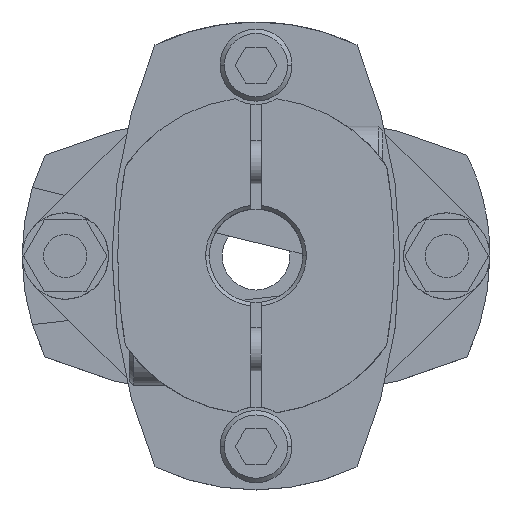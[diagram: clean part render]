
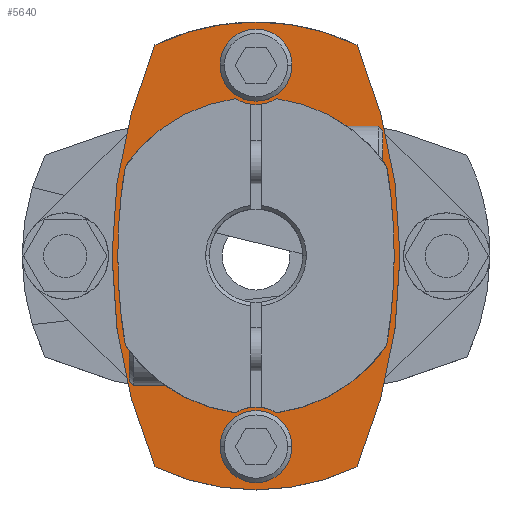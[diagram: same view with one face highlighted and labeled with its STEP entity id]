
A CAD part, top view. The second image highlights one B-rep face of the part: STEP entity #5640.
In plain terms, the highlighted planar face has unit normal (0, 0, 1).
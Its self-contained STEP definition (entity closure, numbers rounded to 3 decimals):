
#732=CARTESIAN_POINT('',(-20.,0.,9.75));
#733=VERTEX_POINT('',#732);
#749=CARTESIAN_POINT('',(-14.034,-29.314,9.75));
#750=VERTEX_POINT('',#749);
#757=CARTESIAN_POINT('',(55.,0.,9.75));
#758=DIRECTION('',(0.0,0.0,-1.0));
#759=DIRECTION('',(-1.0,0.0,0.0));
#760=AXIS2_PLACEMENT_3D('',#757,#758,#759);
#761=CIRCLE('',#760,75.);
#762=EDGE_CURVE('',#750,#733,#761,.T.);
#772=CARTESIAN_POINT('',(20.,0.,9.75));
#773=VERTEX_POINT('',#772);
#782=CARTESIAN_POINT('',(14.034,-29.314,9.75));
#783=VERTEX_POINT('',#782);
#784=CARTESIAN_POINT('',(-55.,0.,9.75));
#785=DIRECTION('',(0.0,0.0,-1.0));
#786=DIRECTION('',(-1.0,0.0,0.0));
#787=AXIS2_PLACEMENT_3D('',#784,#785,#786);
#788=CIRCLE('',#787,75.);
#789=EDGE_CURVE('',#773,#783,#788,.T.);
#1040=CARTESIAN_POINT('',(-5.,-26.5,9.75));
#1041=VERTEX_POINT('',#1040);
#1050=CARTESIAN_POINT('',(5.,-26.5,9.75));
#1051=VERTEX_POINT('',#1050);
#1052=CARTESIAN_POINT('',(0.,-26.5,9.75));
#1053=DIRECTION('',(0.0,0.0,-1.0));
#1054=DIRECTION('',(-1.0,0.0,0.0));
#1055=AXIS2_PLACEMENT_3D('',#1052,#1053,#1054);
#1056=CIRCLE('',#1055,5.0);
#1057=EDGE_CURVE('',#1051,#1041,#1056,.T.);
#1114=CARTESIAN_POINT('',(-5.,26.5,9.75));
#1115=VERTEX_POINT('',#1114);
#1124=CARTESIAN_POINT('',(5.,26.5,9.75));
#1125=VERTEX_POINT('',#1124);
#1126=CARTESIAN_POINT('',(0.,26.5,9.75));
#1127=DIRECTION('',(0.0,0.0,-1.0));
#1128=DIRECTION('',(-1.0,0.0,0.0));
#1129=AXIS2_PLACEMENT_3D('',#1126,#1127,#1128);
#1130=CIRCLE('',#1129,5.0);
#1131=EDGE_CURVE('',#1125,#1115,#1130,.T.);
#1188=CARTESIAN_POINT('',(-19.2,0.,9.75));
#1189=VERTEX_POINT('',#1188);
#1198=CARTESIAN_POINT('',(-18.151,-12.431,9.75));
#1199=VERTEX_POINT('',#1198);
#1200=CARTESIAN_POINT('',(55.,0.,9.75));
#1201=DIRECTION('',(0.0,0.0,-1.0));
#1202=DIRECTION('',(-1.0,0.0,0.0));
#1203=AXIS2_PLACEMENT_3D('',#1200,#1201,#1202);
#1204=CIRCLE('',#1203,74.2);
#1205=EDGE_CURVE('',#1199,#1189,#1204,.T.);
#1328=CARTESIAN_POINT('',(19.2,0.,9.75));
#1329=VERTEX_POINT('',#1328);
#1429=CARTESIAN_POINT('',(18.151,-12.431,9.75));
#1430=VERTEX_POINT('',#1429);
#1437=CARTESIAN_POINT('',(-55.,0.,9.75));
#1438=DIRECTION('',(0.0,0.0,-1.0));
#1439=DIRECTION('',(-1.0,0.0,0.0));
#1440=AXIS2_PLACEMENT_3D('',#1437,#1438,#1439);
#1441=CIRCLE('',#1440,74.2);
#1442=EDGE_CURVE('',#1329,#1430,#1441,.T.);
#4589=CARTESIAN_POINT('',(18.151,12.431,9.75));
#4590=VERTEX_POINT('',#4589);
#4591=CARTESIAN_POINT('',(-55.,0.,9.75));
#4592=DIRECTION('',(0.0,0.0,-1.0));
#4593=DIRECTION('',(-1.0,0.0,0.0));
#4594=AXIS2_PLACEMENT_3D('',#4591,#4592,#4593);
#4595=CIRCLE('',#4594,74.2);
#4596=EDGE_CURVE('',#4590,#1329,#4595,.T.);
#4701=CARTESIAN_POINT('',(-18.151,12.431,9.75));
#4702=VERTEX_POINT('',#4701);
#4709=CARTESIAN_POINT('',(55.,0.,9.75));
#4710=DIRECTION('',(0.0,0.0,-1.0));
#4711=DIRECTION('',(-1.0,0.0,0.0));
#4712=AXIS2_PLACEMENT_3D('',#4709,#4710,#4711);
#4713=CIRCLE('',#4712,74.2);
#4714=EDGE_CURVE('',#1189,#4702,#4713,.T.);
#4751=CARTESIAN_POINT('',(0.,26.5,9.75));
#4752=DIRECTION('',(0.0,0.0,-1.0));
#4753=DIRECTION('',(-1.0,0.0,0.0));
#4754=AXIS2_PLACEMENT_3D('',#4751,#4752,#4753);
#4755=CIRCLE('',#4754,5.0);
#4756=EDGE_CURVE('',#1115,#1125,#4755,.T.);
#4853=CARTESIAN_POINT('',(0.,-26.5,9.75));
#4854=DIRECTION('',(0.0,0.0,-1.0));
#4855=DIRECTION('',(-1.0,0.0,0.0));
#4856=AXIS2_PLACEMENT_3D('',#4853,#4854,#4855);
#4857=CIRCLE('',#4856,5.0);
#4858=EDGE_CURVE('',#1041,#1051,#4857,.T.);
#5321=CARTESIAN_POINT('',(2.875,-21.811,9.75));
#5322=VERTEX_POINT('',#5321);
#5338=CARTESIAN_POINT('',(-2.875,-21.811,9.75));
#5339=VERTEX_POINT('',#5338);
#5346=CARTESIAN_POINT('',(0.,-26.5,9.75));
#5347=DIRECTION('',(0.0,0.0,1.0));
#5348=DIRECTION('',(-1.0,0.0,0.0));
#5349=AXIS2_PLACEMENT_3D('',#5346,#5347,#5348);
#5350=CIRCLE('',#5349,5.5);
#5351=EDGE_CURVE('',#5322,#5339,#5350,.T.);
#5438=CARTESIAN_POINT('',(-2.875,21.811,9.75));
#5439=VERTEX_POINT('',#5438);
#5455=CARTESIAN_POINT('',(2.875,21.811,9.75));
#5456=VERTEX_POINT('',#5455);
#5463=CARTESIAN_POINT('',(0.,26.5,9.75));
#5464=DIRECTION('',(0.0,0.0,1.0));
#5465=DIRECTION('',(-1.0,0.0,0.0));
#5466=AXIS2_PLACEMENT_3D('',#5463,#5464,#5465);
#5467=CIRCLE('',#5466,5.5);
#5468=EDGE_CURVE('',#5439,#5456,#5467,.T.);
#5487=CARTESIAN_POINT('',(0.,0.,9.75));
#5488=DIRECTION('',(0.0,0.0,-1.0));
#5489=DIRECTION('',(-1.0,0.0,0.0));
#5490=AXIS2_PLACEMENT_3D('',#5487,#5488,#5489);
#5491=CIRCLE('',#5490,22.);
#5492=EDGE_CURVE('',#5339,#1199,#5491,.T.);
#5561=CARTESIAN_POINT('',(0.,0.,9.75));
#5562=DIRECTION('',(0.0,0.0,1.0));
#5563=DIRECTION('',(-1.0,0.0,0.0));
#5564=AXIS2_PLACEMENT_3D('',#5561,#5562,#5563);
#5565=PLANE('',#5564);
#5566=CARTESIAN_POINT('',(14.034,29.314,9.75));
#5567=VERTEX_POINT('',#5566);
#5568=CARTESIAN_POINT('',(-55.,0.,9.75));
#5569=DIRECTION('',(0.0,0.0,-1.0));
#5570=DIRECTION('',(-1.0,0.0,0.0));
#5571=AXIS2_PLACEMENT_3D('',#5568,#5569,#5570);
#5572=CIRCLE('',#5571,75.);
#5573=EDGE_CURVE('',#5567,#773,#5572,.T.);
#5574=ORIENTED_EDGE('',*,*,#5573,.F.);
#5575=CARTESIAN_POINT('',(-14.034,29.314,9.75));
#5576=VERTEX_POINT('',#5575);
#5577=CARTESIAN_POINT('',(0.0,0.,9.75));
#5578=DIRECTION('',(0.0,0.0,-1.0));
#5579=DIRECTION('',(-1.0,0.0,0.0));
#5580=AXIS2_PLACEMENT_3D('',#5577,#5578,#5579);
#5581=CIRCLE('',#5580,32.5);
#5582=EDGE_CURVE('',#5576,#5567,#5581,.T.);
#5583=ORIENTED_EDGE('',*,*,#5582,.F.);
#5584=CARTESIAN_POINT('',(55.,0.,9.75));
#5585=DIRECTION('',(0.0,0.0,-1.0));
#5586=DIRECTION('',(-1.0,0.0,0.0));
#5587=AXIS2_PLACEMENT_3D('',#5584,#5585,#5586);
#5588=CIRCLE('',#5587,75.);
#5589=EDGE_CURVE('',#733,#5576,#5588,.T.);
#5590=ORIENTED_EDGE('',*,*,#5589,.F.);
#5591=ORIENTED_EDGE('',*,*,#762,.F.);
#5592=CARTESIAN_POINT('',(0.0,0.,9.75));
#5593=DIRECTION('',(0.0,0.0,-1.0));
#5594=DIRECTION('',(-1.0,0.0,0.0));
#5595=AXIS2_PLACEMENT_3D('',#5592,#5593,#5594);
#5596=CIRCLE('',#5595,32.5);
#5597=EDGE_CURVE('',#783,#750,#5596,.T.);
#5598=ORIENTED_EDGE('',*,*,#5597,.F.);
#5599=ORIENTED_EDGE('',*,*,#789,.F.);
#5600=EDGE_LOOP('',(#5574,#5583,#5590,#5591,#5598,#5599));
#5601=FACE_OUTER_BOUND('',#5600,.T.);
#5602=ORIENTED_EDGE('',*,*,#4858,.T.);
#5603=ORIENTED_EDGE('',*,*,#1057,.T.);
#5604=EDGE_LOOP('',(#5602,#5603));
#5605=FACE_BOUND('',#5604,.T.);
#5606=ORIENTED_EDGE('',*,*,#4756,.T.);
#5607=ORIENTED_EDGE('',*,*,#1131,.T.);
#5608=EDGE_LOOP('',(#5606,#5607));
#5609=FACE_BOUND('',#5608,.T.);
#5610=ORIENTED_EDGE('',*,*,#5492,.T.);
#5611=ORIENTED_EDGE('',*,*,#1205,.T.);
#5612=ORIENTED_EDGE('',*,*,#4714,.T.);
#5613=CARTESIAN_POINT('',(0.,0.,9.75));
#5614=DIRECTION('',(0.0,0.0,-1.0));
#5615=DIRECTION('',(-1.0,0.0,0.0));
#5616=AXIS2_PLACEMENT_3D('',#5613,#5614,#5615);
#5617=CIRCLE('',#5616,22.);
#5618=EDGE_CURVE('',#4702,#5439,#5617,.T.);
#5619=ORIENTED_EDGE('',*,*,#5618,.T.);
#5620=ORIENTED_EDGE('',*,*,#5468,.T.);
#5621=CARTESIAN_POINT('',(0.,0.,9.75));
#5622=DIRECTION('',(0.0,0.0,-1.0));
#5623=DIRECTION('',(-1.0,0.0,0.0));
#5624=AXIS2_PLACEMENT_3D('',#5621,#5622,#5623);
#5625=CIRCLE('',#5624,22.);
#5626=EDGE_CURVE('',#5456,#4590,#5625,.T.);
#5627=ORIENTED_EDGE('',*,*,#5626,.T.);
#5628=ORIENTED_EDGE('',*,*,#4596,.T.);
#5629=ORIENTED_EDGE('',*,*,#1442,.T.);
#5630=CARTESIAN_POINT('',(0.,0.,9.75));
#5631=DIRECTION('',(0.0,0.0,-1.0));
#5632=DIRECTION('',(-1.0,0.0,0.0));
#5633=AXIS2_PLACEMENT_3D('',#5630,#5631,#5632);
#5634=CIRCLE('',#5633,22.);
#5635=EDGE_CURVE('',#1430,#5322,#5634,.T.);
#5636=ORIENTED_EDGE('',*,*,#5635,.T.);
#5637=ORIENTED_EDGE('',*,*,#5351,.T.);
#5638=EDGE_LOOP('',(#5610,#5611,#5612,#5619,#5620,#5627,#5628,#5629,#5636,#5637));
#5639=FACE_BOUND('',#5638,.T.);
#5640=ADVANCED_FACE('',(#5601,#5605,#5609,#5639),#5565,.T.);
